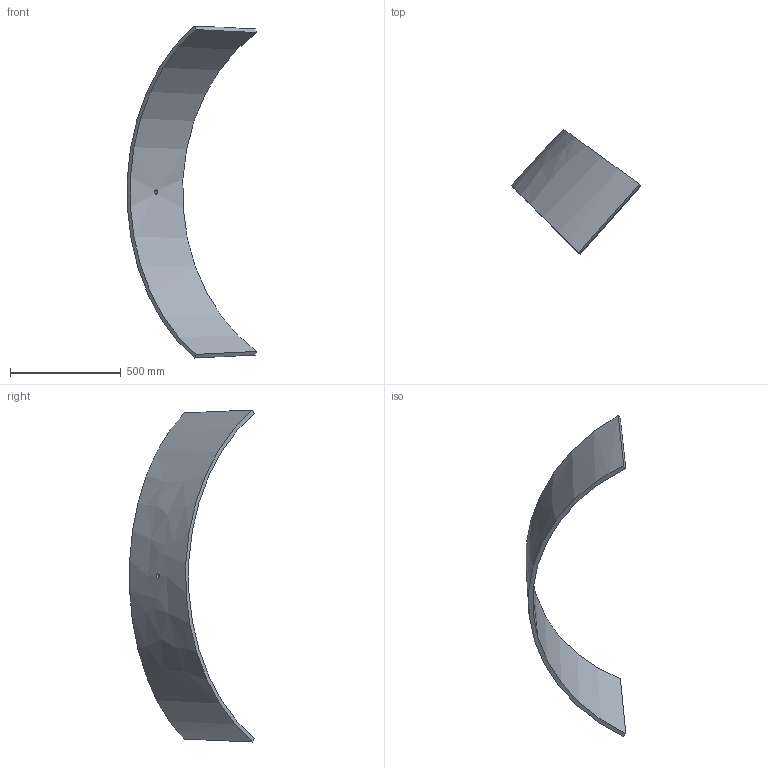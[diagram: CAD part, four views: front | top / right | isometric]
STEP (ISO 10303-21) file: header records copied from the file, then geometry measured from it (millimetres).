
FILE_DESCRIPTION (( 'STEP AP214' ), '1' );
FILE_NAME ('Section 8-B.STEP', '2025-01-09T19:43:28', ( '' ), ( '' ), 'SwSTEP 2.0', 'SolidWorks 2024', '' );
FILE_SCHEMA (( 'AUTOMOTIVE_DESIGN' ));
Length unit declared in the file: inch
Products named in the file (1): Section 8-B
Bounding box: 583.3 x 562.73 x 1496.67 mm (x, y, z)
Volume: 12454508.8 mm3; surface area: 1391757.5 mm2
Topology: 1 solids, 1 shells, 7 faces, 15 edges, 10 vertices
Faces by surface type: bspline 6, cylinder 1
Full cylindrical faces by diameter (mm): 19.431 x1
Entity records: 521 total; most frequent: CARTESIAN_POINT 384, ORIENTED_EDGE 28, EDGE_CURVE 14, B_SPLINE_CURVE_WITH_KNOTS 14, VERTEX_POINT 10, EDGE_LOOP 10, FACE_OUTER_BOUND 8, ADVANCED_FACE 7
